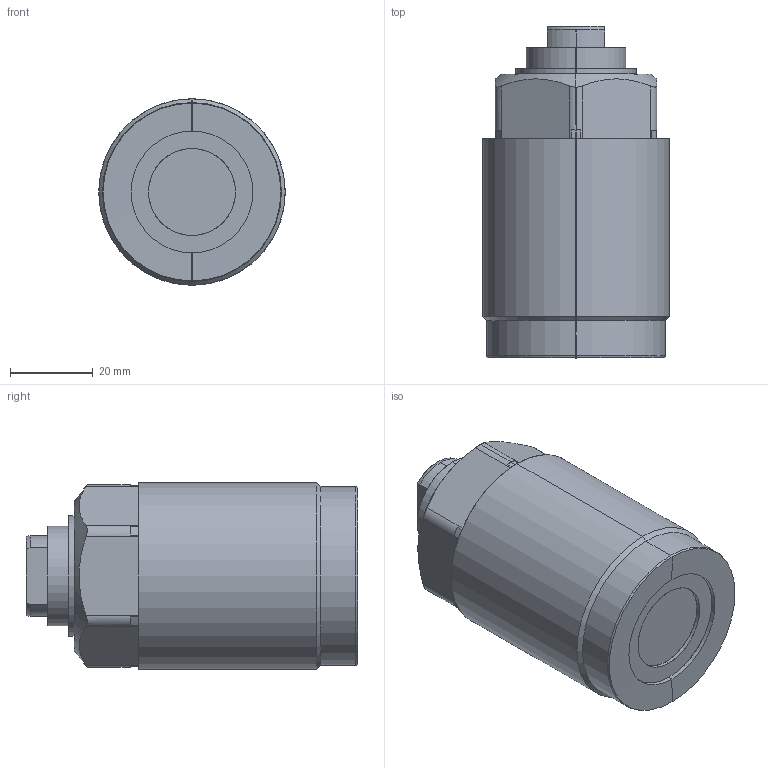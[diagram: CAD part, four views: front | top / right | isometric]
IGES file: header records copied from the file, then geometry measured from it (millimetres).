
Start section: SolidWorks IGES file using analytic representation for surfaces
Global section: file name: E:\karthik\CLASYS\FOR CD\Pneumatics\0211 Work Support(Threaded Body)\pneu advance\0211-0451\0211-0451.IGS; native system: SolidWorks 2010; preprocessor: SolidWorks 2010; author: karthik; date: 130917.155955; units: millimetre
Bounding box: 45 x 80.14 x 45 mm (x, y, z)
Surface area: 13370.6 mm2 (no closed solid volume)
Topology: 0 solids, 0 shells, 63 faces, 786 edges, 784 vertices
Faces by surface type: revolution 44, bspline 19
